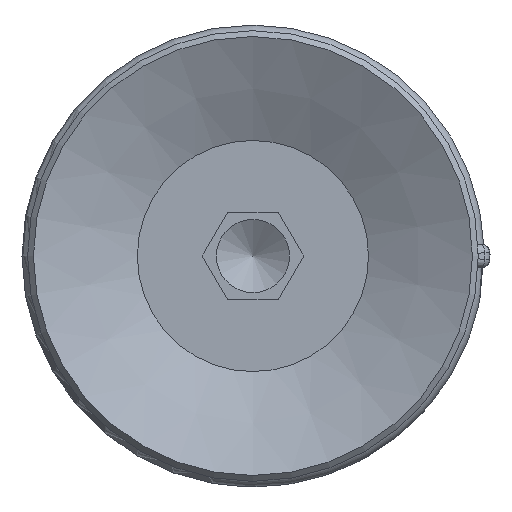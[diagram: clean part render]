
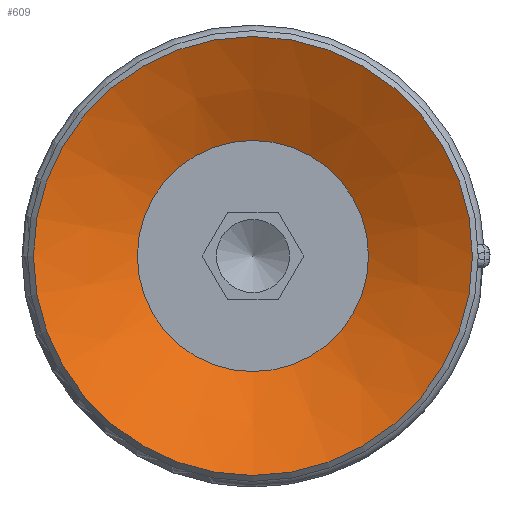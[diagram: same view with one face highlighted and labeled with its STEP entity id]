
A CAD part, front view. The second image highlights one B-rep face of the part: STEP entity #609.
In plain terms, the highlighted conical face has half-angle 64 degrees and reference radius 3.95 mm.
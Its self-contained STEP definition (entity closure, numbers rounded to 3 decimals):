
#609=ADVANCED_FACE('',(#906,#907),#908,.F.);
#906=FACE_BOUND('',#1397,.T.);
#907=FACE_OUTER_BOUND('',#1398,.T.);
#908=CONICAL_SURFACE('',#1399,3.95,1.117);
#1397=EDGE_LOOP('',(#2420));
#1398=EDGE_LOOP('',(#2421));
#1399=AXIS2_PLACEMENT_3D('',#2422,#2423,#2424);
#2420=ORIENTED_EDGE('',*,*,#3015,.F.);
#2421=ORIENTED_EDGE('',*,*,#3016,.T.);
#2422=CARTESIAN_POINT('',(0.0,-29.404,-47.168));
#2423=DIRECTION('',(-0.0,0.,1.0));
#2424=DIRECTION('',(0.0,-1.0,0.));
#3015=EDGE_CURVE('',#3421,#3421,#3422,.T.);
#3016=EDGE_CURVE('',#3423,#3423,#3424,.T.);
#3421=VERTEX_POINT('',#4486);
#3422=CIRCLE('',#4487,3.95);
#3423=VERTEX_POINT('',#4488);
#3424=CIRCLE('',#4489,7.5);
#4486=CARTESIAN_POINT('',(0.0,-33.354,-47.168));
#4487=AXIS2_PLACEMENT_3D('',#5260,#5261,#5262);
#4488=CARTESIAN_POINT('',(0.0,-36.904,-45.437));
#4489=AXIS2_PLACEMENT_3D('',#5263,#5264,#5265);
#5260=CARTESIAN_POINT('',(0.0,-29.404,-47.168));
#5261=DIRECTION('',(0.0,0.,1.0));
#5262=DIRECTION('',(0.0,-1.0,0.));
#5263=CARTESIAN_POINT('',(0.0,-29.404,-45.437));
#5264=DIRECTION('',(0.0,0.,1.0));
#5265=DIRECTION('',(0.0,-1.0,0.));
